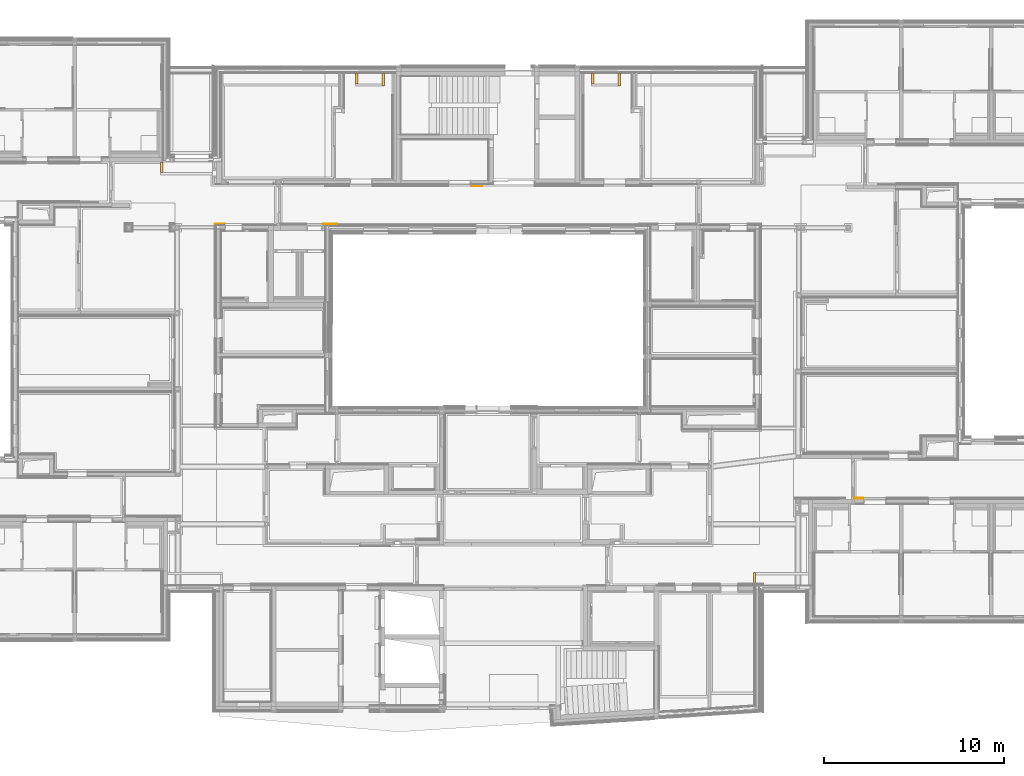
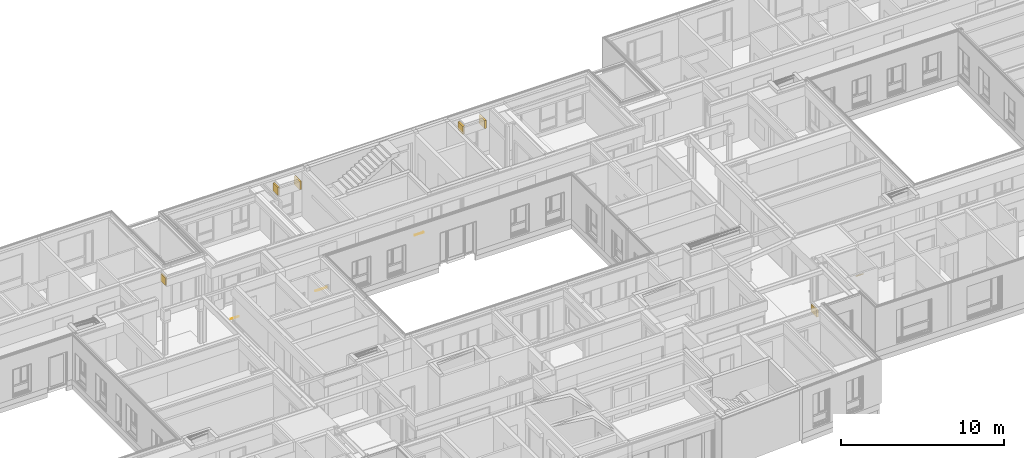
# One storey, part 205 of 207: 6 coverings, 4 railings, 4 elements without a shape of their own.
"""IFC4 building model written with IfcOpenShell, lengths in metres."""

from ifc_helpers import new_model, entity, si_unit, converted_unit, derived_unit, frame, origin, place, context, subcontext, project, spatial, faceted_brep, material, element, aggregate, save


model = new_model("IFC4")

# Units and contexts
model_context = context("Model", 3, precision=1e-05, world=origin())
body_context = subcontext(model_context, "Body", "Model", "MODEL_VIEW")
ifc_project = project(units=[si_unit("LENGTHUNIT", "METRE"), si_unit("AREAUNIT", "SQUARE_METRE"), si_unit("VOLUMEUNIT", "CUBIC_METRE"), si_unit("MASSUNIT", "GRAM", prefix="KILO"), converted_unit("PLANEANGLEUNIT", "DEGREE", entity("IfcPlaneAngleMeasure", 0.0174532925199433), si_unit("PLANEANGLEUNIT", "RADIAN"), dimensions=[0, 0, 0, 0, 0, 0, 0]), derived_unit("THERMALTRANSMITTANCEUNIT", [(si_unit("POWERUNIT", "WATT"), 1), (si_unit("THERMODYNAMICTEMPERATUREUNIT", "KELVIN"), -1), (si_unit("LENGTHUNIT", "METRE"), -2)]), derived_unit("VOLUMETRICFLOWRATEUNIT", [(si_unit("LENGTHUNIT", "METRE"), 3), (converted_unit("TIMEUNIT", "hour", entity("IfcTimeMeasure", 3600.0), si_unit("TIMEUNIT", "SECOND"), dimensions=[0, 0, 1, 0, 0, 0, 0]), -1), (si_unit("LENGTHUNIT", "METRE"), -1)])], contexts=[model_context])

# Site, building, storey
site_placement = place(None, origin())
site = spatial("IfcSite", under=ifc_project, at=site_placement, Name="Psychiatrie Neubau Wunstorf", CompositionType="ELEMENT")
building_placement = place(site_placement, origin())
building = spatial("IfcBuilding", under=site, at=building_placement, Name="Neubau H2 Stationsgebäude", CompositionType="ELEMENT")
storey_placement = place(building_placement, frame((0.0, 0.0, -0.2)))
storey = spatial("IfcBuildingStorey", under=building, at=storey_placement, Name="H2 Ebene 0", CompositionType="ELEMENT", Elevation=-0.2)

# Assembly, railing
assembly_1_placement = place(storey_placement, frame((0.0, 0.0, 0.2)))
assembly_1 = element("IfcElementAssembly", 1, at=assembly_1_placement, inside=storey, Name="Geländer+Abstand", PredefinedType="NOTDEFINED")
ifc_material_1 = material(Name="Holz")
railing_1_placement = place(assembly_1_placement, frame((73.3949999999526, 5.3825, 0.8)))
railing_1 = element("IfcRailing", 2, at=railing_1_placement, material=ifc_material_1, context=body_context, shape_type="Brep", body=[
    faceted_brep([(0.500000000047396, 0.000103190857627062, 0.025), (0.500000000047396, 0.000481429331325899, 0.0293232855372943), (0.500000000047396, 0.00160465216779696, 0.0335152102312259), (0.500000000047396, 0.00343873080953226, 0.0374484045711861), (0.500000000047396, 0.00592793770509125, 0.0410033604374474), (0.500000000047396, 0.00899663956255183, 0.0440720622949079), (0.500000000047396, 0.0125515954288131, 0.0465612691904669), (0.500000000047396, 0.0164847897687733, 0.0483953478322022), (0.500000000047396, 0.0206767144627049, 0.0495185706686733), (0.500000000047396, 0.0249999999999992, 0.0498968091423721), (0.500000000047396, 0.0293232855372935, 0.0495185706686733), (0.500000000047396, 0.0335152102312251, 0.0483953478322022), (0.500000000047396, 0.0374484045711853, 0.0465612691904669), (0.500000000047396, 0.0410033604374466, 0.0440720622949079), (0.500000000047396, 0.0440720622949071, 0.0410033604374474), (0.500000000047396, 0.0465612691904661, 0.0374484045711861), (0.500000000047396, 0.0483953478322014, 0.0335152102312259), (0.500000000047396, 0.0495185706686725, 0.0293232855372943), (0.500000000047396, 0.0498968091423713, 0.025), (0.500000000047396, 0.0495185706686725, 0.0206767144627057), (0.500000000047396, 0.0483953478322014, 0.0164847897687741), (0.500000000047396, 0.0465612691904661, 0.0125515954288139), (0.500000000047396, 0.0440720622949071, 0.00899663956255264), (0.500000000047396, 0.0410033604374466, 0.00592793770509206), (0.500000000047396, 0.0374484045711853, 0.00343873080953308), (0.500000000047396, 0.0335152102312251, 0.00160465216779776), (0.500000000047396, 0.0293232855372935, 0.000481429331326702), (0.500000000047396, 0.0249999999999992, 0.000103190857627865), (0.500000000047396, 0.0206767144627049, 0.000481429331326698), (0.500000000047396, 0.0164847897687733, 0.00160465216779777), (0.500000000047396, 0.0125515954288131, 0.00343873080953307), (0.500000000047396, 0.00899663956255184, 0.00592793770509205), (0.500000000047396, 0.00592793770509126, 0.00899663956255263), (0.500000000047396, 0.00343873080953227, 0.0125515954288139), (0.500000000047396, 0.00160465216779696, 0.0164847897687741), (0.500000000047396, 0.000481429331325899, 0.0206767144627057), (0.0, 0.00010319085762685, 0.025), (0.0, 0.000481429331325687, 0.0206767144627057), (0.0, 0.00160465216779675, 0.0164847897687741), (0.0, 0.00343873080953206, 0.0125515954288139), (0.0, 0.00592793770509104, 0.00899663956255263), (0.0, 0.00899663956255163, 0.00592793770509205), (0.0, 0.0125515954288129, 0.00343873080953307), (0.0, 0.016484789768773, 0.00160465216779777), (0.0, 0.0206767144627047, 0.000481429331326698), (0.0, 0.024999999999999, 0.000103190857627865), (0.0, 0.0293232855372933, 0.000481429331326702), (0.0, 0.0335152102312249, 0.00160465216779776), (0.0, 0.0374484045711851, 0.00343873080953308), (0.0, 0.0410033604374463, 0.00592793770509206), (0.0, 0.0440720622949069, 0.00899663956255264), (0.0, 0.0465612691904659, 0.0125515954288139), (0.0, 0.0483953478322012, 0.0164847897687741), (0.0, 0.0495185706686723, 0.0206767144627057), (0.0, 0.0498968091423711, 0.025), (0.0, 0.0495185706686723, 0.0293232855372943), (0.0, 0.0483953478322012, 0.0335152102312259), (0.0, 0.0465612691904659, 0.0374484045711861), (0.0, 0.0440720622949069, 0.0410033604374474), (0.0, 0.0410033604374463, 0.0440720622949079), (0.0, 0.037448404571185, 0.0465612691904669), (0.0, 0.0335152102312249, 0.0483953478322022), (0.0, 0.0293232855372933, 0.0495185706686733), (0.0, 0.024999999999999, 0.0498968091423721), (0.0, 0.0206767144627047, 0.0495185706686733), (0.0, 0.016484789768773, 0.0483953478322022), (0.0, 0.0125515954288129, 0.0465612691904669), (0.0, 0.00899663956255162, 0.0440720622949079), (0.0, 0.00592793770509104, 0.0410033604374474), (0.0, 0.00343873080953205, 0.0374484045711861), (0.0, 0.00160465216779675, 0.0335152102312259), (0.0, 0.000481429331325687, 0.0293232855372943)], [[[0, 1, 2, 3, 4, 5, 6, 7, 8, 9, 10, 11, 12, 13, 14, 15, 16, 17, 18, 19, 20, 21, 22, 23, 24, 25, 26, 27, 28, 29, 30, 31, 32, 33, 34, 35]], [[36, 37, 38, 39, 40, 41, 42, 43, 44, 45, 46, 47, 48, 49, 50, 51, 52, 53, 54, 55, 56, 57, 58, 59, 60, 61, 62, 63, 64, 65, 66, 67, 68, 69, 70, 71]], [[1, 0, 36, 71]], [[2, 1, 71, 70]], [[3, 2, 70, 69]], [[4, 3, 69, 68]], [[5, 4, 68, 67]], [[6, 5, 67, 66]], [[7, 6, 66, 65]], [[8, 7, 65, 64]], [[9, 8, 64, 63]], [[10, 9, 63, 62]], [[11, 10, 62, 61]], [[12, 11, 61, 60]], [[13, 12, 60, 59]], [[14, 13, 59, 58]], [[15, 14, 58, 57]], [[16, 15, 57, 56]], [[17, 16, 56, 55]], [[18, 17, 55, 54]], [[19, 18, 54, 53]], [[20, 19, 53, 52]], [[21, 20, 52, 51]], [[22, 21, 51, 50]], [[23, 22, 50, 49]], [[24, 23, 49, 48]], [[25, 24, 48, 47]], [[26, 25, 47, 46]], [[27, 26, 46, 45]], [[28, 27, 45, 44]], [[29, 28, 44, 43]], [[30, 29, 43, 42]], [[31, 30, 42, 41]], [[32, 31, 41, 40]], [[33, 32, 40, 39]], [[34, 33, 39, 38]], [[35, 34, 38, 37]], [[0, 35, 37, 36]]], orient=[[False], [False], [False], [False], [False], [False], [False], [False], [False], [False], [False], [False], [False], [False], [False], [False], [False], [False], [False], [False], [False], [False], [False], [False], [False], [False], [False], [False], [False], [False], [False], [False], [False], [False], [False], [False], [False], [False]]),
])
aggregate(assembly_1, [railing_1])

assembly_2_placement = place(storey_placement, frame((0.0, 0.0, 0.2)))
assembly_2 = element("IfcElementAssembly", 3, at=assembly_2_placement, inside=storey, Name="Geländer+Abstand", PredefinedType="NOTDEFINED")
ifc_material_2 = material(Name="Holz")
railing_2_placement = place(assembly_2_placement, frame((52.065, 22.7639999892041, 0.8)))
railing_2 = element("IfcRailing", 4, at=railing_2_placement, material=ifc_material_2, context=body_context, shape_type="Brep", body=[
    faceted_brep([(0.0, 0.0498968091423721, 0.025), (0.0, 0.0495185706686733, 0.0293232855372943), (0.0, 0.0483953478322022, 0.0335152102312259), (0.0, 0.0465612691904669, 0.0374484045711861), (0.0, 0.0440720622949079, 0.0410033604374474), (0.0, 0.0410033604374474, 0.0440720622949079), (0.0, 0.0374484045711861, 0.0465612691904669), (0.0, 0.0335152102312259, 0.0483953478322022), (0.0, 0.0293232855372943, 0.0495185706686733), (0.0, 0.025, 0.0498968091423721), (0.0, 0.0206767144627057, 0.0495185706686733), (0.0, 0.0164847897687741, 0.0483953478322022), (0.0, 0.0125515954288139, 0.0465612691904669), (0.0, 0.00899663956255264, 0.0440720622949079), (0.0, 0.00592793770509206, 0.0410033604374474), (0.0, 0.00343873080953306, 0.0374484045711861), (0.0, 0.00160465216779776, 0.0335152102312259), (0.0, 0.000481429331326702, 0.0293232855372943), (0.0, 0.000103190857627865, 0.025), (0.0, 0.000481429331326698, 0.0206767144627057), (0.0, 0.00160465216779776, 0.0164847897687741), (0.0, 0.00343873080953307, 0.0125515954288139), (0.0, 0.00592793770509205, 0.00899663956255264), (0.0, 0.00899663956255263, 0.00592793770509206), (0.0, 0.0125515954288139, 0.00343873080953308), (0.0, 0.0164847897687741, 0.00160465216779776), (0.0, 0.0206767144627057, 0.000481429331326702), (0.0, 0.025, 0.000103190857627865), (0.0, 0.0293232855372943, 0.000481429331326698), (0.0, 0.0335152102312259, 0.00160465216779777), (0.0, 0.0374484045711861, 0.00343873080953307), (0.0, 0.0410033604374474, 0.00592793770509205), (0.0, 0.0440720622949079, 0.00899663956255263), (0.0, 0.0465612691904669, 0.0125515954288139), (0.0, 0.0483953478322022, 0.0164847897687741), (0.0, 0.0495185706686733, 0.0206767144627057), (0.617499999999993, 0.0498968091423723, 0.025), (0.617499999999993, 0.0495185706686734, 0.0206767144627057), (0.617499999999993, 0.0483953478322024, 0.0164847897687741), (0.617499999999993, 0.0465612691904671, 0.0125515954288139), (0.617499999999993, 0.0440720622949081, 0.00899663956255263), (0.617499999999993, 0.0410033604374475, 0.00592793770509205), (0.617499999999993, 0.0374484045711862, 0.00343873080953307), (0.617499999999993, 0.0335152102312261, 0.00160465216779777), (0.617499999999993, 0.0293232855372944, 0.000481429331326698), (0.617499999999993, 0.0250000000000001, 0.000103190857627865), (0.617499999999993, 0.0206767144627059, 0.000481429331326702), (0.617499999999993, 0.0164847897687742, 0.00160465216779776), (0.617499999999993, 0.0125515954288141, 0.00343873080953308), (0.617499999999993, 0.00899663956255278, 0.00592793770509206), (0.617499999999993, 0.0059279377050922, 0.00899663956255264), (0.617499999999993, 0.00343873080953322, 0.0125515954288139), (0.617499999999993, 0.00160465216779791, 0.0164847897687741), (0.617499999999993, 0.000481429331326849, 0.0206767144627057), (0.617499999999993, 0.000103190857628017, 0.025), (0.617499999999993, 0.000481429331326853, 0.0293232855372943), (0.617499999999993, 0.00160465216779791, 0.0335152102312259), (0.617499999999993, 0.00343873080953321, 0.0374484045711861), (0.617499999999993, 0.00592793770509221, 0.0410033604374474), (0.617499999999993, 0.00899663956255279, 0.0440720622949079), (0.617499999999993, 0.0125515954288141, 0.0465612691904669), (0.617499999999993, 0.0164847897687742, 0.0483953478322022), (0.617499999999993, 0.0206767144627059, 0.0495185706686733), (0.617499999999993, 0.0250000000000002, 0.0498968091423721), (0.617499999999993, 0.0293232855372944, 0.0495185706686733), (0.617499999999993, 0.0335152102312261, 0.0483953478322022), (0.617499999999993, 0.0374484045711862, 0.0465612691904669), (0.617499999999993, 0.0410033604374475, 0.0440720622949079), (0.617499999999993, 0.0440720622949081, 0.0410033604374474), (0.617499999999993, 0.0465612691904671, 0.0374484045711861), (0.617499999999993, 0.0483953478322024, 0.0335152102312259), (0.617499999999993, 0.0495185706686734, 0.0293232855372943)], [[[0, 1, 2, 3, 4, 5, 6, 7, 8, 9, 10, 11, 12, 13, 14, 15, 16, 17, 18, 19, 20, 21, 22, 23, 24, 25, 26, 27, 28, 29, 30, 31, 32, 33, 34, 35]], [[36, 37, 38, 39, 40, 41, 42, 43, 44, 45, 46, 47, 48, 49, 50, 51, 52, 53, 54, 55, 56, 57, 58, 59, 60, 61, 62, 63, 64, 65, 66, 67, 68, 69, 70, 71]], [[1, 0, 36, 71]], [[2, 1, 71, 70]], [[3, 2, 70, 69]], [[4, 3, 69, 68]], [[5, 4, 68, 67]], [[6, 5, 67, 66]], [[7, 6, 66, 65]], [[8, 7, 65, 64]], [[9, 8, 64, 63]], [[10, 9, 63, 62]], [[11, 10, 62, 61]], [[12, 11, 61, 60]], [[13, 12, 60, 59]], [[14, 13, 59, 58]], [[15, 14, 58, 57]], [[16, 15, 57, 56]], [[17, 16, 56, 55]], [[18, 17, 55, 54]], [[19, 18, 54, 53]], [[20, 19, 53, 52]], [[21, 20, 52, 51]], [[22, 21, 51, 50]], [[23, 22, 50, 49]], [[24, 23, 49, 48]], [[25, 24, 48, 47]], [[26, 25, 47, 46]], [[27, 26, 46, 45]], [[28, 27, 45, 44]], [[29, 28, 44, 43]], [[30, 29, 43, 42]], [[31, 30, 42, 41]], [[32, 31, 41, 40]], [[33, 32, 40, 39]], [[34, 33, 39, 38]], [[35, 34, 38, 37]], [[0, 35, 37, 36]]], orient=[[False], [False], [False], [False], [False], [False], [False], [False], [False], [False], [False], [False], [False], [False], [False], [False], [False], [False], [False], [False], [False], [False], [False], [False], [False], [False], [False], [False], [False], [False], [False], [False], [False], [False], [False], [False], [False], [False]]),
])
aggregate(assembly_2, [railing_2])

assembly_3_placement = place(storey_placement, frame((0.0, 0.0, 0.2)))
assembly_3 = element("IfcElementAssembly", 5, at=assembly_3_placement, inside=storey, Name="Geländer+Abstand", PredefinedType="NOTDEFINED")
ifc_material_3 = material(Name="Holz")
railing_3_placement = place(assembly_3_placement, frame((43.7990231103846, 20.6359980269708, 0.8)))
railing_3 = element("IfcRailing", 6, at=railing_3_placement, material=ifc_material_3, context=body_context, shape_type="Brep", body=[
    faceted_brep([(0.780976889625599, 0.000103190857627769, 0.025), (0.780976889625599, 0.000481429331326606, 0.0293232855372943), (0.780976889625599, 0.00160465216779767, 0.0335152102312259), (0.780976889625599, 0.00343873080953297, 0.0374484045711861), (0.780976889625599, 0.00592793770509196, 0.0410033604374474), (0.780976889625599, 0.00899663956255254, 0.0440720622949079), (0.780976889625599, 0.0125515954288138, 0.0465612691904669), (0.780976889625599, 0.016484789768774, 0.0483953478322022), (0.780976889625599, 0.0206767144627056, 0.0495185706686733), (0.780976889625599, 0.0249999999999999, 0.0498968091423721), (0.780976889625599, 0.0293232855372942, 0.0495185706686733), (0.780976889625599, 0.0335152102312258, 0.0483953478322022), (0.780976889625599, 0.037448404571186, 0.0465612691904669), (0.780976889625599, 0.0410033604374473, 0.0440720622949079), (0.780976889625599, 0.0440720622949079, 0.0410033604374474), (0.780976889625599, 0.0465612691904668, 0.0374484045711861), (0.780976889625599, 0.0483953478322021, 0.0335152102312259), (0.780976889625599, 0.0495185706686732, 0.0293232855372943), (0.780976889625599, 0.049896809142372, 0.025), (0.780976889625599, 0.0495185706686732, 0.0206767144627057), (0.780976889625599, 0.0483953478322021, 0.0164847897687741), (0.780976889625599, 0.0465612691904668, 0.0125515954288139), (0.780976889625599, 0.0440720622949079, 0.00899663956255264), (0.780976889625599, 0.0410033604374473, 0.00592793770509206), (0.780976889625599, 0.037448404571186, 0.00343873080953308), (0.780976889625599, 0.0335152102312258, 0.00160465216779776), (0.780976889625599, 0.0293232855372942, 0.000481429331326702), (0.780976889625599, 0.0249999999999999, 0.000103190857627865), (0.780976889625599, 0.0206767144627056, 0.000481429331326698), (0.780976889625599, 0.016484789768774, 0.00160465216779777), (0.780976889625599, 0.0125515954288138, 0.00343873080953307), (0.780976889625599, 0.00899663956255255, 0.00592793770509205), (0.780976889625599, 0.00592793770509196, 0.00899663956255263), (0.780976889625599, 0.00343873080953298, 0.0125515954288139), (0.780976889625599, 0.00160465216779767, 0.0164847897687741), (0.780976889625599, 0.000481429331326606, 0.0206767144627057), (0.0, 0.000103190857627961, 0.025), (0.0, 0.000481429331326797, 0.0206767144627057), (0.0, 0.00160465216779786, 0.0164847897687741), (0.0, 0.00343873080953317, 0.0125515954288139), (0.0, 0.00592793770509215, 0.00899663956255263), (0.0, 0.00899663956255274, 0.00592793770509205), (0.0, 0.012551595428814, 0.00343873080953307), (0.0, 0.0164847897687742, 0.00160465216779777), (0.0, 0.0206767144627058, 0.000481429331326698), (0.0, 0.0250000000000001, 0.000103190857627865), (0.0, 0.0293232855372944, 0.000481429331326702), (0.0, 0.033515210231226, 0.00160465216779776), (0.0, 0.0374484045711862, 0.00343873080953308), (0.0, 0.0410033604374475, 0.00592793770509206), (0.0, 0.044072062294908, 0.00899663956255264), (0.0, 0.046561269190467, 0.0125515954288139), (0.0, 0.0483953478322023, 0.0164847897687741), (0.0, 0.0495185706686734, 0.0206767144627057), (0.0, 0.0498968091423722, 0.025), (0.0, 0.0495185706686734, 0.0293232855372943), (0.0, 0.0483953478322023, 0.0335152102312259), (0.0, 0.046561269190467, 0.0374484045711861), (0.0, 0.044072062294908, 0.0410033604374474), (0.0, 0.0410033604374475, 0.0440720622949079), (0.0, 0.0374484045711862, 0.0465612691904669), (0.0, 0.033515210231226, 0.0483953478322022), (0.0, 0.0293232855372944, 0.0495185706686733), (0.0, 0.0250000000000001, 0.0498968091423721), (0.0, 0.0206767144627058, 0.0495185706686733), (0.0, 0.0164847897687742, 0.0483953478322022), (0.0, 0.012551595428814, 0.0465612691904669), (0.0, 0.00899663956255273, 0.0440720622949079), (0.0, 0.00592793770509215, 0.0410033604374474), (0.0, 0.00343873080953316, 0.0374484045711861), (0.0, 0.00160465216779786, 0.0335152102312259), (0.0, 0.000481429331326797, 0.0293232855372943)], [[[0, 1, 2, 3, 4, 5, 6, 7, 8, 9, 10, 11, 12, 13, 14, 15, 16, 17, 18, 19, 20, 21, 22, 23, 24, 25, 26, 27, 28, 29, 30, 31, 32, 33, 34, 35]], [[36, 37, 38, 39, 40, 41, 42, 43, 44, 45, 46, 47, 48, 49, 50, 51, 52, 53, 54, 55, 56, 57, 58, 59, 60, 61, 62, 63, 64, 65, 66, 67, 68, 69, 70, 71]], [[1, 0, 36, 71]], [[2, 1, 71, 70]], [[3, 2, 70, 69]], [[4, 3, 69, 68]], [[5, 4, 68, 67]], [[6, 5, 67, 66]], [[7, 6, 66, 65]], [[8, 7, 65, 64]], [[9, 8, 64, 63]], [[10, 9, 63, 62]], [[11, 10, 62, 61]], [[12, 11, 61, 60]], [[13, 12, 60, 59]], [[14, 13, 59, 58]], [[15, 14, 58, 57]], [[16, 15, 57, 56]], [[17, 16, 56, 55]], [[18, 17, 55, 54]], [[19, 18, 54, 53]], [[20, 19, 53, 52]], [[21, 20, 52, 51]], [[22, 21, 51, 50]], [[23, 22, 50, 49]], [[24, 23, 49, 48]], [[25, 24, 48, 47]], [[26, 25, 47, 46]], [[27, 26, 46, 45]], [[28, 27, 45, 44]], [[29, 28, 44, 43]], [[30, 29, 43, 42]], [[31, 30, 42, 41]], [[32, 31, 41, 40]], [[33, 32, 40, 39]], [[34, 33, 39, 38]], [[35, 34, 38, 37]], [[0, 35, 37, 36]]], orient=[[False], [False], [False], [False], [False], [False], [False], [False], [False], [False], [False], [False], [False], [False], [False], [False], [False], [False], [False], [False], [False], [False], [False], [False], [False], [False], [False], [False], [False], [False], [False], [False], [False], [False], [False], [False], [False], [False]]),
])
aggregate(assembly_3, [railing_3])

assembly_4_placement = place(storey_placement, frame((0.0, 0.0, 0.2)))
assembly_4 = element("IfcElementAssembly", 7, at=assembly_4_placement, inside=storey, Name="Geländer+Abstand", PredefinedType="NOTDEFINED")
ifc_material_4 = material(Name="Holz")
railing_4_placement = place(assembly_4_placement, frame((37.7825, 20.6359980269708, 0.8)))
railing_4 = element("IfcRailing", 8, at=railing_4_placement, material=ifc_material_4, context=body_context, shape_type="Brep", body=[
    faceted_brep([(0.552500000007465, 0.000103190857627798, 0.025), (0.552500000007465, 0.000481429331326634, 0.0293232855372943), (0.552500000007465, 0.0016046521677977, 0.0335152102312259), (0.552500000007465, 0.00343873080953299, 0.0374484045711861), (0.552500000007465, 0.00592793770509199, 0.0410033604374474), (0.552500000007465, 0.00899663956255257, 0.0440720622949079), (0.552500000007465, 0.0125515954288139, 0.0465612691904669), (0.552500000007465, 0.016484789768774, 0.0483953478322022), (0.552500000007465, 0.0206767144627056, 0.0495185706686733), (0.552500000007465, 0.0249999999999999, 0.0498968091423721), (0.552500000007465, 0.0293232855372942, 0.0495185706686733), (0.552500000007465, 0.0335152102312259, 0.0483953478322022), (0.552500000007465, 0.037448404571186, 0.0465612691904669), (0.552500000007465, 0.0410033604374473, 0.0440720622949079), (0.552500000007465, 0.0440720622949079, 0.0410033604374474), (0.552500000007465, 0.0465612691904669, 0.0374484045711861), (0.552500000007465, 0.0483953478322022, 0.0335152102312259), (0.552500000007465, 0.0495185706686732, 0.0293232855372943), (0.552500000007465, 0.0498968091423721, 0.025), (0.552500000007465, 0.0495185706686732, 0.0206767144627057), (0.552500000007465, 0.0483953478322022, 0.0164847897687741), (0.552500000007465, 0.0465612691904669, 0.0125515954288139), (0.552500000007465, 0.0440720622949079, 0.00899663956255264), (0.552500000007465, 0.0410033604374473, 0.00592793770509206), (0.552500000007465, 0.037448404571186, 0.00343873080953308), (0.552500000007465, 0.0335152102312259, 0.00160465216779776), (0.552500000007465, 0.0293232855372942, 0.000481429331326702), (0.552500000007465, 0.0249999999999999, 0.000103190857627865), (0.552500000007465, 0.0206767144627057, 0.000481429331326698), (0.552500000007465, 0.016484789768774, 0.00160465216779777), (0.552500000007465, 0.0125515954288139, 0.00343873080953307), (0.552500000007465, 0.00899663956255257, 0.00592793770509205), (0.552500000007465, 0.00592793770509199, 0.00899663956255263), (0.552500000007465, 0.00343873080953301, 0.0125515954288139), (0.552500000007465, 0.0016046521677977, 0.0164847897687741), (0.552500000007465, 0.000481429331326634, 0.0206767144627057), (0.0, 0.000103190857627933, 0.025), (0.0, 0.000481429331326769, 0.0206767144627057), (0.0, 0.00160465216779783, 0.0164847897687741), (0.0, 0.00343873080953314, 0.0125515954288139), (0.0, 0.00592793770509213, 0.00899663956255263), (0.0, 0.00899663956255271, 0.00592793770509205), (0.0, 0.012551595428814, 0.00343873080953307), (0.0, 0.0164847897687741, 0.00160465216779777), (0.0, 0.0206767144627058, 0.000481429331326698), (0.0, 0.0250000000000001, 0.000103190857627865), (0.0, 0.0293232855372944, 0.000481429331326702), (0.0, 0.033515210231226, 0.00160465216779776), (0.0, 0.0374484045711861, 0.00343873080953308), (0.0, 0.0410033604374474, 0.00592793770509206), (0.0, 0.044072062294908, 0.00899663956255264), (0.0, 0.046561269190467, 0.0125515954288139), (0.0, 0.0483953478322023, 0.0164847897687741), (0.0, 0.0495185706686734, 0.0206767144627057), (0.0, 0.0498968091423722, 0.025), (0.0, 0.0495185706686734, 0.0293232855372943), (0.0, 0.0483953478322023, 0.0335152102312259), (0.0, 0.046561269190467, 0.0374484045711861), (0.0, 0.044072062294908, 0.0410033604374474), (0.0, 0.0410033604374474, 0.0440720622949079), (0.0, 0.0374484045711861, 0.0465612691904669), (0.0, 0.033515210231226, 0.0483953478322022), (0.0, 0.0293232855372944, 0.0495185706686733), (0.0, 0.0250000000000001, 0.0498968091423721), (0.0, 0.0206767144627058, 0.0495185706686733), (0.0, 0.0164847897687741, 0.0483953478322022), (0.0, 0.012551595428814, 0.0465612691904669), (0.0, 0.0089966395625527, 0.0440720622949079), (0.0, 0.00592793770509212, 0.0410033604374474), (0.0, 0.00343873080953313, 0.0374484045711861), (0.0, 0.00160465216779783, 0.0335152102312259), (0.0, 0.000481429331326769, 0.0293232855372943)], [[[0, 1, 2, 3, 4, 5, 6, 7, 8, 9, 10, 11, 12, 13, 14, 15, 16, 17, 18, 19, 20, 21, 22, 23, 24, 25, 26, 27, 28, 29, 30, 31, 32, 33, 34, 35]], [[36, 37, 38, 39, 40, 41, 42, 43, 44, 45, 46, 47, 48, 49, 50, 51, 52, 53, 54, 55, 56, 57, 58, 59, 60, 61, 62, 63, 64, 65, 66, 67, 68, 69, 70, 71]], [[1, 0, 36, 71]], [[2, 1, 71, 70]], [[3, 2, 70, 69]], [[4, 3, 69, 68]], [[5, 4, 68, 67]], [[6, 5, 67, 66]], [[7, 6, 66, 65]], [[8, 7, 65, 64]], [[9, 8, 64, 63]], [[10, 9, 63, 62]], [[11, 10, 62, 61]], [[12, 11, 61, 60]], [[13, 12, 60, 59]], [[14, 13, 59, 58]], [[15, 14, 58, 57]], [[16, 15, 57, 56]], [[17, 16, 56, 55]], [[18, 17, 55, 54]], [[19, 18, 54, 53]], [[20, 19, 53, 52]], [[21, 20, 52, 51]], [[22, 21, 51, 50]], [[23, 22, 50, 49]], [[24, 23, 49, 48]], [[25, 24, 48, 47]], [[26, 25, 47, 46]], [[27, 26, 46, 45]], [[28, 27, 45, 44]], [[29, 28, 44, 43]], [[30, 29, 43, 42]], [[31, 30, 42, 41]], [[32, 31, 41, 40]], [[33, 32, 40, 39]], [[34, 33, 39, 38]], [[35, 34, 38, 37]], [[0, 35, 37, 36]]], orient=[[False], [False], [False], [False], [False], [False], [False], [False], [False], [False], [False], [False], [False], [False], [False], [False], [False], [False], [False], [False], [False], [False], [False], [False], [False], [False], [False], [False], [False], [False], [False], [False], [False], [False], [False], [False], [False], [False]]),
])
aggregate(assembly_4, [railing_4])

# Coverings
ifc_material_5 = material(Name="D1")
covering_1_placement = place(storey_placement, frame((67.775, 0.536002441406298, 2.85)))
element("IfcCovering", 9, at=covering_1_placement, inside=storey, material=ifc_material_5, Name="a-sh Abschluss Abhangdecke", PredefinedType="CEILING", context=body_context, shape_type="Brep", body=[
    faceted_brep([(0.0, 0.0, 0.0), (0.0, 0.723997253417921, 0.0), (0.0, 0.723997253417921, 0.55), (0.0, 0.0, 0.55), (0.125, 0.723997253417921, 0.0), (0.125, 0.723997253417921, 0.55), (0.125, 0.0, 0.0), (0.125, 0.0, 0.55)], [[[0, 1, 2, 3]], [[1, 4, 5, 2]], [[4, 6, 7, 5]], [[6, 0, 3, 7]], [[7, 3, 2, 5]], [[0, 6, 4, 1]]], orient=[[False], [False], [False], [False], [False], [False]]),
])
covering_2_placement = place(storey_placement, frame((34.775, 23.515, 2.85)))
element("IfcCovering", 10, at=covering_2_placement, inside=storey, Name="a-sh Abschluss Abhangdecke", PredefinedType="CEILING", context=body_context, shape_type="Brep", body=[
    faceted_brep([(0.0, 0.0, 0.0), (0.0, 0.5990036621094, 0.0), (0.0, 0.5990036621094, 0.55), (0.0, 0.0, 0.55), (0.125, 0.5990036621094, 0.0), (0.125, 0.5990036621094, 0.55), (0.125, 0.0, 0.0), (0.125, 0.0, 0.55)], [[[0, 1, 2, 3]], [[1, 4, 5, 2]], [[4, 6, 7, 5]], [[6, 0, 3, 7]], [[7, 3, 2, 5]], [[0, 6, 4, 1]]], orient=[[False], [False], [False], [False], [False], [False]]),
])
ifc_material_6 = material(Name="D1")
covering_3_placement = place(storey_placement, frame((47.1029997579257, 28.3389996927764, 2.8)))
element("IfcCovering", 11, at=covering_3_placement, inside=storey, material=ifc_material_6, Name="a-sh Abschluss Abhangdecke", PredefinedType="CEILING", context=body_context, shape_type="Brep", body=[
    faceted_brep([(0.125, 0.725000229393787, 0.0), (0.125, 0.0, 0.0), (0.125, 0.0, 0.6), (0.125, 0.725000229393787, 0.6), (0.0, 0.0, 0.0), (0.0, 0.0, 0.6), (0.0, 0.725000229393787, 0.0), (0.0, 0.725000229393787, 0.6)], [[[0, 1, 2, 3]], [[1, 4, 5, 2]], [[4, 6, 7, 5]], [[6, 0, 3, 7]], [[7, 3, 2, 5]], [[0, 6, 4, 1]]], orient=[[False], [False], [False], [False], [False], [False]]),
])
covering_4_placement = place(storey_placement, frame((45.6249998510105, 28.4639996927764, 2.8)))
element("IfcCovering", 12, at=covering_4_placement, inside=storey, Name="a-sh Abschluss Abhangdecke", PredefinedType="CEILING", context=body_context, shape_type="Brep", body=[
    faceted_brep([(0.0, 0.0, 0.0), (0.0, 0.599999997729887, 0.0), (0.0, 0.599999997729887, 0.6), (0.0, 0.0, 0.6), (0.125, 0.599999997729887, 0.0), (0.125, 0.599999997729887, 0.6), (0.125, 0.0, 0.0), (0.125, 0.0, 0.6)], [[[0, 1, 2, 3]], [[1, 4, 5, 2]], [[4, 6, 7, 5]], [[6, 0, 3, 7]], [[7, 3, 2, 5]], [[0, 6, 4, 1]]], orient=[[False], [False], [False], [False], [False], [False]]),
])
ifc_material_7 = material(Name="D1")
covering_5_placement = place(storey_placement, frame((60.2389999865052, 28.3389996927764, 2.8)))
element("IfcCovering", 13, at=covering_5_placement, inside=storey, material=ifc_material_7, Name="a-sh Abschluss Abhangdecke", PredefinedType="CEILING", context=body_context, shape_type="Brep", body=[
    faceted_brep([(0.125, 0.724999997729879, 0.0), (0.125, 0.0, 0.0), (0.125, 0.0, 0.6), (0.125, 0.724999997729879, 0.6), (0.0, 0.0, 0.0), (0.0, 0.0, 0.6), (0.0, 0.724999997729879, 0.0), (0.0, 0.724999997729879, 0.6)], [[[0, 1, 2, 3]], [[1, 4, 5, 2]], [[4, 6, 7, 5]], [[6, 0, 3, 7]], [[7, 3, 2, 5]], [[0, 6, 4, 1]]], orient=[[False], [False], [False], [False], [False], [False]]),
])
covering_6_placement = place(storey_placement, frame((58.7610000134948, 28.4639996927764, 2.8)))
element("IfcCovering", 14, at=covering_6_placement, inside=storey, Name="a-sh Abschluss Abhangdecke", PredefinedType="CEILING", context=body_context, shape_type="Brep", body=[
    faceted_brep([(0.0, 0.0, 0.0), (0.0, 0.599999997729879, 0.0), (0.0, 0.599999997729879, 0.6), (0.0, 0.0, 0.6), (0.125, 0.599999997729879, 0.0), (0.125, 0.599999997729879, 0.6), (0.125, 0.0, 0.0), (0.125, 0.0, 0.6)], [[[0, 1, 2, 3]], [[1, 4, 5, 2]], [[4, 6, 7, 5]], [[6, 0, 3, 7]], [[7, 3, 2, 5]], [[0, 6, 4, 1]]], orient=[[False], [False], [False], [False], [False], [False]]),
])

save(model, "model.ifc")
